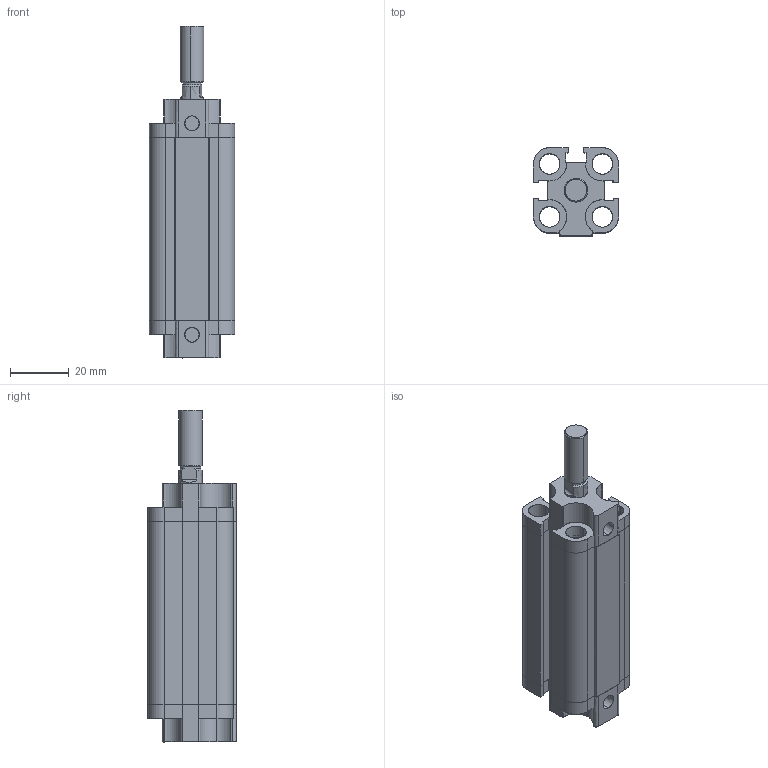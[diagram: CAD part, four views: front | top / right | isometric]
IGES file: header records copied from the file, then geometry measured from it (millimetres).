
Start section: SolidWorks IGES file using analytic representation for surfaces
Global section: file name: D:\ARICA 3D ÇÝZÝMLER\3D IGES\ADVU-S-A\ADVU-S-A 16\ADVU16X50-S-A-CYLINDER.IGS; native system: SolidWorks 2013; preprocessor: SolidWorks 2013; author: user; date: 150413.104857; units: millimetre
Bounding box: 29 x 30 x 113 mm (x, y, z)
Surface area: 30045.9 mm2 (no closed solid volume)
Topology: 0 solids, 0 shells, 322 faces, 4746 edges, 4746 vertices
Faces by surface type: revolution 179, bspline 143
